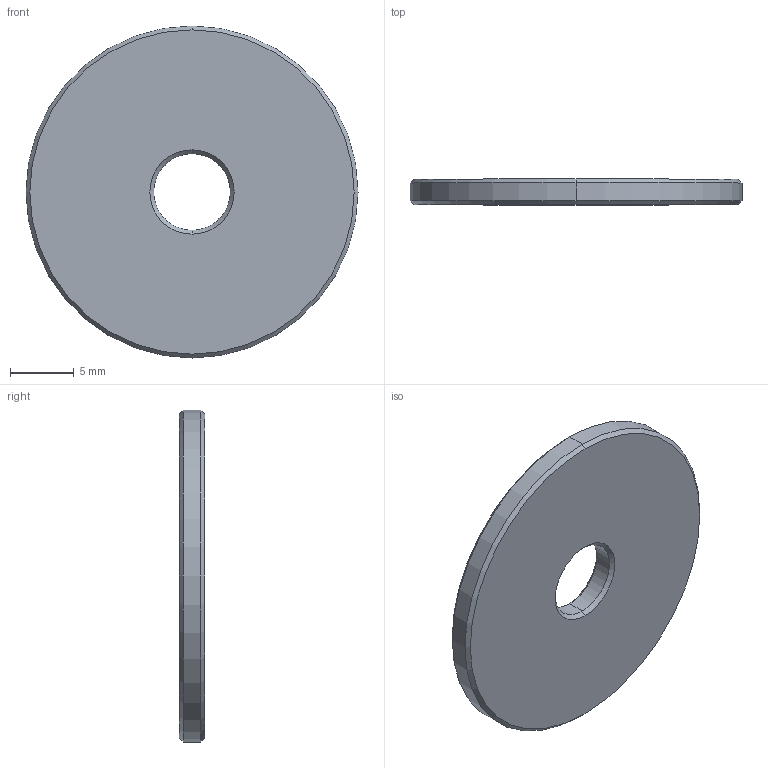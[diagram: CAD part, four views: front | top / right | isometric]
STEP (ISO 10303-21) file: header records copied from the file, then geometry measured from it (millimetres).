
FILE_DESCRIPTION (( 'STEP AP214' ), '1' );
FILE_NAME ('結え.STEP', '2026-10-21T02:06:32', ( '' ), ( '' ), 'SwSTEP 2.0', 'SolidWorks 2024', '' );
FILE_SCHEMA (( 'AUTOMOTIVE_DESIGN' ));
Length unit declared in the file: millimetre
Products named in the file (1): 挡片
Bounding box: 26 x 2 x 26 mm (x, y, z)
Volume: 996.3 mm3; surface area: 1171 mm2
Topology: 1 solids, 1 shells, 14 faces, 28 edges, 16 vertices
Faces by surface type: cone 8, cylinder 4, plane 2
Entity records: 391 total; most frequent: DIRECTION 74, CARTESIAN_POINT 59, ORIENTED_EDGE 56, AXIS2_PLACEMENT_3D 31, EDGE_CURVE 28, EDGE_LOOP 16, CIRCLE 16, VERTEX_POINT 16
